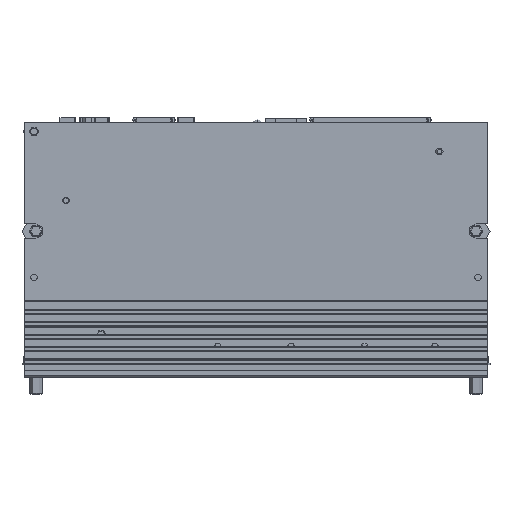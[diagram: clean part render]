
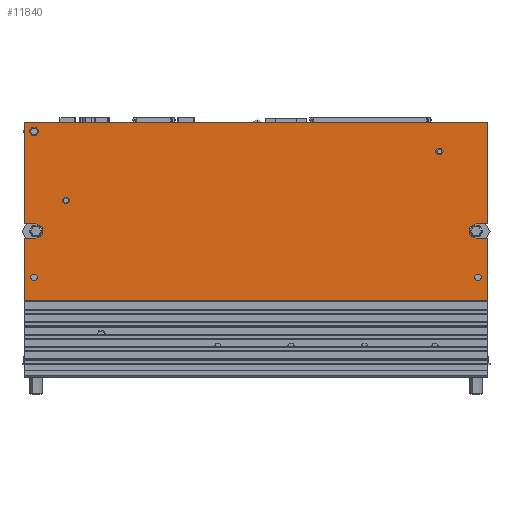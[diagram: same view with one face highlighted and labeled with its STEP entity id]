
A CAD part, front view. The second image highlights one B-rep face of the part: STEP entity #11840.
In plain terms, the highlighted planar face has unit normal (0, -1, 0).
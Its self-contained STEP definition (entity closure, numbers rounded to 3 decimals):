
#2752=CARTESIAN_POINT('',(133.3,7.3,21.6));
#2753=DIRECTION('',(0.,-1.,0.));
#2754=DIRECTION('',(1.,0.,0.));
#2755=AXIS2_PLACEMENT_3D('',#2752,#2753,#2754);
#2760=CARTESIAN_POINT('',(133.3,7.3,21.6));
#2761=DIRECTION('',(0.,-1.,0.));
#2762=DIRECTION('',(-1.,0.,0.));
#2763=AXIS2_PLACEMENT_3D('',#2760,#2761,#2762);
#2768=CARTESIAN_POINT('',(13.3,7.3,5.8));
#2769=DIRECTION('',(0.,-1.,0.));
#2770=DIRECTION('',(1.,0.,0.));
#2771=AXIS2_PLACEMENT_3D('',#2768,#2769,#2770);
#2776=CARTESIAN_POINT('',(13.3,7.3,5.8));
#2777=DIRECTION('',(0.,-1.,0.));
#2778=DIRECTION('',(-1.,0.,0.));
#2779=AXIS2_PLACEMENT_3D('',#2776,#2777,#2778);
#2784=CARTESIAN_POINT('',(3.,7.3,28.));
#2785=DIRECTION('',(0.,-1.,0.));
#2786=DIRECTION('',(1.,0.,0.));
#2787=AXIS2_PLACEMENT_3D('',#2784,#2785,#2786);
#2792=CARTESIAN_POINT('',(3.,7.3,28.));
#2793=DIRECTION('',(0.,-1.,0.));
#2794=DIRECTION('',(-1.,0.,0.));
#2795=AXIS2_PLACEMENT_3D('',#2792,#2793,#2794);
#2800=CARTESIAN_POINT('',(3.65,7.3,-4.05));
#2801=DIRECTION('',(0.,1.,0.));
#2802=DIRECTION('',(0.,0.,1.));
#2803=AXIS2_PLACEMENT_3D('',#2800,#2801,#2802);
#2808=DIRECTION('',(1.,0.,0.));
#2809=VECTOR('',#2808,3.65);
#2810=CARTESIAN_POINT('',(0.,7.3,-1.7));
#2811=LINE('',#2810,#2809);
#2815=DIRECTION('',(0.,0.,1.));
#2816=VECTOR('',#2815,32.7);
#2817=CARTESIAN_POINT('',(0.,7.3,-1.7));
#2818=LINE('',#2817,#2816);
#2822=DIRECTION('',(-1.,0.,0.));
#2823=VECTOR('',#2822,148.8);
#2824=CARTESIAN_POINT('',(148.8,7.3,31.));
#2825=LINE('',#2824,#2823);
#2829=DIRECTION('',(0.,0.,-1.));
#2830=VECTOR('',#2829,32.7);
#2831=CARTESIAN_POINT('',(148.8,7.3,31.));
#2832=LINE('',#2831,#2830);
#2836=DIRECTION('',(-1.,0.,0.));
#2837=VECTOR('',#2836,3.65);
#2838=CARTESIAN_POINT('',(148.8,7.3,-1.7));
#2839=LINE('',#2838,#2837);
#2843=CARTESIAN_POINT('',(145.15,7.3,-4.05));
#2844=DIRECTION('',(0.,1.,0.));
#2845=DIRECTION('',(0.,0.,-1.));
#2846=AXIS2_PLACEMENT_3D('',#2843,#2844,#2845);
#2851=DIRECTION('',(-1.,0.,0.));
#2852=VECTOR('',#2851,3.65);
#2853=CARTESIAN_POINT('',(148.8,7.3,-6.4));
#2854=LINE('',#2853,#2852);
#2858=DIRECTION('',(0.,0.,-1.));
#2859=VECTOR('',#2858,19.9);
#2860=CARTESIAN_POINT('',(148.8,7.3,-6.4));
#2861=LINE('',#2860,#2859);
#2865=DIRECTION('',(1.,0.,0.));
#2866=VECTOR('',#2865,148.8);
#2867=CARTESIAN_POINT('',(0.,7.3,-26.3));
#2868=LINE('',#2867,#2866);
#2872=DIRECTION('',(0.,0.,1.));
#2873=VECTOR('',#2872,19.9);
#2874=CARTESIAN_POINT('',(0.,7.3,-26.3));
#2875=LINE('',#2874,#2873);
#2879=DIRECTION('',(1.,0.,0.));
#2880=VECTOR('',#2879,3.65);
#2881=CARTESIAN_POINT('',(0.,7.3,-6.4));
#2882=LINE('',#2881,#2880);
#2886=CARTESIAN_POINT('',(3.,7.3,-18.9));
#2887=DIRECTION('',(0.,1.,0.));
#2888=DIRECTION('',(1.,0.,0.));
#2889=AXIS2_PLACEMENT_3D('',#2886,#2887,#2888);
#2894=CARTESIAN_POINT('',(3.,7.3,-18.9));
#2895=DIRECTION('',(0.,1.,0.));
#2896=DIRECTION('',(-1.,0.,0.));
#2897=AXIS2_PLACEMENT_3D('',#2894,#2895,#2896);
#2902=CARTESIAN_POINT('',(145.8,7.3,-18.9));
#2903=DIRECTION('',(0.,1.,0.));
#2904=DIRECTION('',(1.,0.,0.));
#2905=AXIS2_PLACEMENT_3D('',#2902,#2903,#2904);
#2910=CARTESIAN_POINT('',(145.8,7.3,-18.9));
#2911=DIRECTION('',(0.,1.,0.));
#2912=DIRECTION('',(-1.,0.,0.));
#2913=AXIS2_PLACEMENT_3D('',#2910,#2911,#2912);
#9499=CARTESIAN_POINT('',(0.,7.3,-26.3));
#9500=VERTEX_POINT('',#9499);
#9505=CARTESIAN_POINT('',(148.8,7.3,-26.3));
#9506=VERTEX_POINT('',#9505);
#10647=CARTESIAN_POINT('',(148.8,7.3,31.));
#10648=CARTESIAN_POINT('',(0.,7.3,31.));
#10649=VERTEX_POINT('',#10647);
#10650=VERTEX_POINT('',#10648);
#10715=CARTESIAN_POINT('',(3.65,7.3,-1.7));
#10716=CARTESIAN_POINT('',(3.65,7.3,-6.4));
#10717=VERTEX_POINT('',#10715);
#10718=VERTEX_POINT('',#10716);
#10719=CARTESIAN_POINT('',(0.,7.3,-6.4));
#10720=VERTEX_POINT('',#10719);
#10721=CARTESIAN_POINT('',(0.,7.3,-1.7));
#10722=VERTEX_POINT('',#10721);
#10723=CARTESIAN_POINT('',(148.8,7.3,-6.4));
#10724=CARTESIAN_POINT('',(145.15,7.3,-6.4));
#10725=VERTEX_POINT('',#10723);
#10726=VERTEX_POINT('',#10724);
#10727=CARTESIAN_POINT('',(145.15,7.3,-1.7));
#10728=VERTEX_POINT('',#10727);
#10729=CARTESIAN_POINT('',(148.8,7.3,-1.7));
#10730=VERTEX_POINT('',#10729);
#10731=CARTESIAN_POINT('',(4.5,7.3,28.));
#10732=CARTESIAN_POINT('',(1.5,7.3,28.));
#10733=VERTEX_POINT('',#10731);
#10734=VERTEX_POINT('',#10732);
#10813=CARTESIAN_POINT('',(4.25,7.3,-18.9));
#10814=CARTESIAN_POINT('',(1.75,7.3,-18.9));
#10815=VERTEX_POINT('',#10813);
#10816=VERTEX_POINT('',#10814);
#10821=CARTESIAN_POINT('',(147.05,7.3,-18.9));
#10822=CARTESIAN_POINT('',(144.55,7.3,-18.9));
#10823=VERTEX_POINT('',#10821);
#10824=VERTEX_POINT('',#10822);
#10829=CARTESIAN_POINT('',(134.55,7.3,21.6));
#10830=CARTESIAN_POINT('',(132.05,7.3,21.6));
#10831=VERTEX_POINT('',#10829);
#10832=VERTEX_POINT('',#10830);
#10837=CARTESIAN_POINT('',(14.55,7.3,5.8));
#10838=CARTESIAN_POINT('',(12.05,7.3,5.8));
#10839=VERTEX_POINT('',#10837);
#10840=VERTEX_POINT('',#10838);
#11783=CARTESIAN_POINT('',(148.8,7.3,-25.5));
#11784=DIRECTION('',(0.,-1.,0.));
#11785=DIRECTION('',(0.,0.,-1.));
#11786=AXIS2_PLACEMENT_3D('',#11783,#11784,#11785);
#11787=PLANE('',#11786);
#11789=ORIENTED_EDGE('',*,*,#11788,.F.);
#11791=ORIENTED_EDGE('',*,*,#11790,.F.);
#11792=ORIENTED_EDGE('',*,*,#10910,.T.);
#11794=ORIENTED_EDGE('',*,*,#11793,.F.);
#11796=ORIENTED_EDGE('',*,*,#11795,.T.);
#11798=ORIENTED_EDGE('',*,*,#11797,.T.);
#11800=ORIENTED_EDGE('',*,*,#11799,.F.);
#11802=ORIENTED_EDGE('',*,*,#11801,.F.);
#11804=ORIENTED_EDGE('',*,*,#11803,.T.);
#11806=ORIENTED_EDGE('',*,*,#11805,.F.);
#11807=ORIENTED_EDGE('',*,*,#10932,.T.);
#11809=ORIENTED_EDGE('',*,*,#11808,.T.);
#11810=EDGE_LOOP('',(#11789,#11791,#11792,#11794,#11796,#11798,#11800,#11802,
#11804,#11806,#11807,#11809));
#11811=FACE_OUTER_BOUND('',#11810,.F.);
#11813=ORIENTED_EDGE('',*,*,#11812,.T.);
#11815=ORIENTED_EDGE('',*,*,#11814,.T.);
#11816=EDGE_LOOP('',(#11813,#11815));
#11817=FACE_BOUND('',#11816,.F.);
#11818=ORIENTED_EDGE('',*,*,#11763,.T.);
#11819=ORIENTED_EDGE('',*,*,#11777,.T.);
#11820=EDGE_LOOP('',(#11818,#11819));
#11821=FACE_BOUND('',#11820,.F.);
#11823=ORIENTED_EDGE('',*,*,#11822,.T.);
#11825=ORIENTED_EDGE('',*,*,#11824,.T.);
#11826=EDGE_LOOP('',(#11823,#11825));
#11827=FACE_BOUND('',#11826,.F.);
#11829=ORIENTED_EDGE('',*,*,#11828,.F.);
#11831=ORIENTED_EDGE('',*,*,#11830,.F.);
#11832=EDGE_LOOP('',(#11829,#11831));
#11833=FACE_BOUND('',#11832,.F.);
#11835=ORIENTED_EDGE('',*,*,#11834,.F.);
#11837=ORIENTED_EDGE('',*,*,#11836,.F.);
#11838=EDGE_LOOP('',(#11835,#11837));
#11839=FACE_BOUND('',#11838,.F.);
#2756=CIRCLE('',#2755,1.25);
#2764=CIRCLE('',#2763,1.25);
#2772=CIRCLE('',#2771,1.25);
#2780=CIRCLE('',#2779,1.25);
#2788=CIRCLE('',#2787,1.5);
#2796=CIRCLE('',#2795,1.5);
#2804=CIRCLE('',#2803,2.35);
#2847=CIRCLE('',#2846,2.35);
#2890=CIRCLE('',#2889,1.25);
#2898=CIRCLE('',#2897,1.25);
#2906=CIRCLE('',#2905,1.25);
#2914=CIRCLE('',#2913,1.25);
#10910=EDGE_CURVE('',#10722,#10650,#2818,.T.);
#10932=EDGE_CURVE('',#9500,#10720,#2875,.T.);
#11763=EDGE_CURVE('',#10733,#10734,#2788,.T.);
#11777=EDGE_CURVE('',#10734,#10733,#2796,.T.);
#11788=EDGE_CURVE('',#10717,#10718,#2804,.T.);
#11790=EDGE_CURVE('',#10722,#10717,#2811,.T.);
#11793=EDGE_CURVE('',#10649,#10650,#2825,.T.);
#11795=EDGE_CURVE('',#10649,#10730,#2832,.T.);
#11797=EDGE_CURVE('',#10730,#10728,#2839,.T.);
#11799=EDGE_CURVE('',#10726,#10728,#2847,.T.);
#11801=EDGE_CURVE('',#10725,#10726,#2854,.T.);
#11803=EDGE_CURVE('',#10725,#9506,#2861,.T.);
#11805=EDGE_CURVE('',#9500,#9506,#2868,.T.);
#11808=EDGE_CURVE('',#10720,#10718,#2882,.T.);
#11812=EDGE_CURVE('',#10839,#10840,#2772,.T.);
#11814=EDGE_CURVE('',#10840,#10839,#2780,.T.);
#11822=EDGE_CURVE('',#10831,#10832,#2756,.T.);
#11824=EDGE_CURVE('',#10832,#10831,#2764,.T.);
#11828=EDGE_CURVE('',#10815,#10816,#2890,.T.);
#11830=EDGE_CURVE('',#10816,#10815,#2898,.T.);
#11834=EDGE_CURVE('',#10823,#10824,#2906,.T.);
#11836=EDGE_CURVE('',#10824,#10823,#2914,.T.);
#11840=ADVANCED_FACE('',(#11811,#11817,#11821,#11827,#11833,#11839),#11787,.T.);
